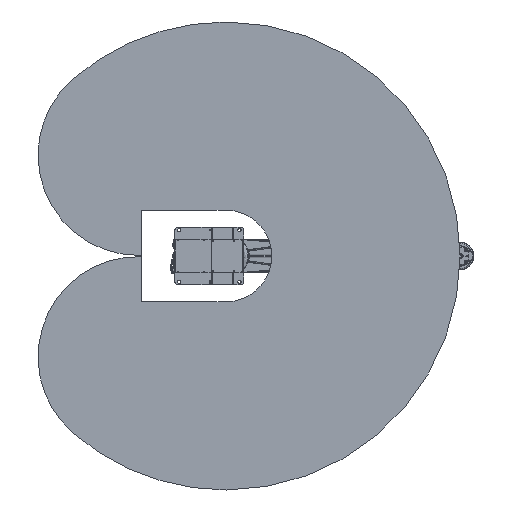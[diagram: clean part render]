
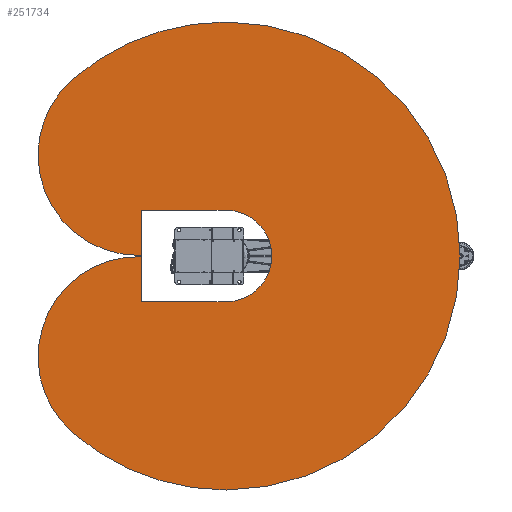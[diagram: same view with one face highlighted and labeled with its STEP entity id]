
A CAD part, front view. The second image highlights one B-rep face of the part: STEP entity #251734.
In plain terms, the highlighted planar face has unit normal (0, -1, 0).
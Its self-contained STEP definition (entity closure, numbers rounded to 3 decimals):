
#2666 = CARTESIAN_POINT ( 'NONE',  ( -144.82, -91.572, 0. ) ) ;
#3368 = VERTEX_POINT ( 'NONE', #263154 ) ;
#5103 = DIRECTION ( 'NONE',  ( 0., 0., 1. ) ) ;
#9723 = VERTEX_POINT ( 'NONE', #146915 ) ;
#11992 = ORIENTED_EDGE ( 'NONE', *, *, #93699, .F. ) ;
#12729 = ORIENTED_EDGE ( 'NONE', *, *, #130005, .F. ) ;
#13671 = CARTESIAN_POINT ( 'NONE',  ( -144.82, -91.572, 0. ) ) ;
#19143 = EDGE_CURVE ( 'NONE', #95452, #177715, #262542, .T. ) ;
#19301 = EDGE_CURVE ( 'NONE', #152040, #197675, #184826, .T. ) ;
#23565 = ORIENTED_EDGE ( 'NONE', *, *, #234563, .T. ) ;
#25460 = ORIENTED_EDGE ( 'NONE', *, *, #56161, .T. ) ;
#26246 = AXIS2_PLACEMENT_3D ( 'NONE', #228909, #87481, #252648 ) ;
#26438 = DIRECTION ( 'NONE',  ( 0., 0., 1. ) ) ;
#37076 = CARTESIAN_POINT ( 'NONE',  ( -538.455, -91.572, 452.826 ) ) ;
#37450 = DIRECTION ( 'NONE',  ( 0., 0., 1. ) ) ;
#40552 = CARTESIAN_POINT ( 'NONE',  ( -833.682, -91.572, -792.445 ) ) ;
#40664 = VERTEX_POINT ( 'NONE', #264055 ) ;
#52526 = DIRECTION ( 'NONE',  ( 0., 1., 0. ) ) ;
#53549 = EDGE_CURVE ( 'NONE', #177715, #95875, #186306, .T. ) ;
#55373 = ORIENTED_EDGE ( 'NONE', *, *, #19143, .F. ) ;
#56161 = EDGE_CURVE ( 'NONE', #207208, #299601, #227366, .T. ) ;
#57226 = CARTESIAN_POINT ( 'NONE',  ( -144.82, -91.572, -205.212 ) ) ;
#59305 = VECTOR ( 'NONE', #84178, 1000. ) ;
#60805 = DIRECTION ( 'NONE',  ( 0., 0., 1. ) ) ;
#63287 = FACE_OUTER_BOUND ( 'NONE', #231058, .T. ) ;
#68982 = CARTESIAN_POINT ( 'NONE',  ( -144.82, -91.572, 205.212 ) ) ;
#76695 = ORIENTED_EDGE ( 'NONE', *, *, #53549, .F. ) ;
#84178 = DIRECTION ( 'NONE',  ( -1., 0., 0. ) ) ;
#85068 = DIRECTION ( 'NONE',  ( 0., 0., 1. ) ) ;
#87481 = DIRECTION ( 'NONE',  ( 0., 1., 0. ) ) ;
#88795 = VECTOR ( 'NONE', #85068, 1000. ) ;
#91665 = PLANE ( 'NONE',  #222423 ) ;
#93699 = EDGE_CURVE ( 'NONE', #40664, #3368, #194626, .T. ) ;
#95452 = VERTEX_POINT ( 'NONE', #201040 ) ;
#95875 = VERTEX_POINT ( 'NONE', #194530 ) ;
#103903 = CARTESIAN_POINT ( 'NONE',  ( -144.82, -91.572, 0. ) ) ;
#104974 = CARTESIAN_POINT ( 'NONE',  ( -524.82, -91.572, 205.212 ) ) ;
#113444 = CIRCLE ( 'NONE', #124711, 450. ) ;
#124711 = AXIS2_PLACEMENT_3D ( 'NONE', #37076, #202239, #60805 ) ;
#127613 = DIRECTION ( 'NONE',  ( 0., 0., 1. ) ) ;
#130005 = EDGE_CURVE ( 'NONE', #296616, #9723, #237901, .T. ) ;
#132074 = ORIENTED_EDGE ( 'NONE', *, *, #19301, .F. ) ;
#137119 = DIRECTION ( 'NONE',  ( 0., 1., 0. ) ) ;
#146566 = DIRECTION ( 'NONE',  ( 0., 1., 0. ) ) ;
#146915 = CARTESIAN_POINT ( 'NONE',  ( -144.82, -91.572, 1050. ) ) ;
#151031 = LINE ( 'NONE', #187589, #206296 ) ;
#151666 = LINE ( 'NONE', #296827, #88795 ) ;
#152040 = VERTEX_POINT ( 'NONE', #68982 ) ;
#159440 = EDGE_CURVE ( 'NONE', #299601, #95875, #151666, .T. ) ;
#163474 = ORIENTED_EDGE ( 'NONE', *, *, #235689, .F. ) ;
#167850 = DIRECTION ( 'NONE',  ( 0., 1., 0. ) ) ;
#177715 = VERTEX_POINT ( 'NONE', #40552 ) ;
#178876 = DIRECTION ( 'NONE',  ( 0., 1., 0. ) ) ;
#184826 = LINE ( 'NONE', #225622, #59305 ) ;
#185113 = ORIENTED_EDGE ( 'NONE', *, *, #261062, .T. ) ;
#186306 = CIRCLE ( 'NONE', #197977, 450. ) ;
#187589 = CARTESIAN_POINT ( 'NONE',  ( -524.82, -91.572, 0. ) ) ;
#193968 = CARTESIAN_POINT ( 'NONE',  ( -144.82, -91.572, 0. ) ) ;
#194530 = CARTESIAN_POINT ( 'NONE',  ( -524.82, -91.572, -3.032 ) ) ;
#194626 = CIRCLE ( 'NONE', #26246, 450. ) ;
#196130 = AXIS2_PLACEMENT_3D ( 'NONE', #193968, #52526, #217703 ) ;
#197675 = VERTEX_POINT ( 'NONE', #104974 ) ;
#197977 = AXIS2_PLACEMENT_3D ( 'NONE', #288148, #146566, #5103 ) ;
#201040 = CARTESIAN_POINT ( 'NONE',  ( -144.82, -91.572, -1050. ) ) ;
#202239 = DIRECTION ( 'NONE',  ( 0., 1., 0. ) ) ;
#204567 = AXIS2_PLACEMENT_3D ( 'NONE', #103903, #269136, #127613 ) ;
#206296 = VECTOR ( 'NONE', #211295, 1000. ) ;
#207208 = VERTEX_POINT ( 'NONE', #57226 ) ;
#209344 = CARTESIAN_POINT ( 'NONE',  ( -144.82, -91.572, 0. ) ) ;
#209361 = EDGE_CURVE ( 'NONE', #3368, #296616, #113444, .T. ) ;
#211295 = DIRECTION ( 'NONE',  ( 0., 0., 1. ) ) ;
#212459 = CARTESIAN_POINT ( 'NONE',  ( -144.82, -91.572, -205.212 ) ) ;
#212486 = VECTOR ( 'NONE', #259991, 1000. ) ;
#217703 = DIRECTION ( 'NONE',  ( 0., 0., 1. ) ) ;
#222423 = AXIS2_PLACEMENT_3D ( 'NONE', #209344, #137119, #256851 ) ;
#224829 = CARTESIAN_POINT ( 'NONE',  ( -524.82, -91.572, -205.212 ) ) ;
#225622 = CARTESIAN_POINT ( 'NONE',  ( -144.82, -91.572, 205.212 ) ) ;
#227366 = LINE ( 'NONE', #212459, #212486 ) ;
#228909 = CARTESIAN_POINT ( 'NONE',  ( -538.455, -91.572, 452.826 ) ) ;
#231058 = EDGE_LOOP ( 'NONE', ( #132074, #23565, #25460, #259027, #76695, #55373, #163474, #12729, #300319, #11992, #185113 ) ) ;
#232614 = CIRCLE ( 'NONE', #196130, 1050. ) ;
#234563 = EDGE_CURVE ( 'NONE', #152040, #207208, #277436, .T. ) ;
#235689 = EDGE_CURVE ( 'NONE', #9723, #95452, #232614, .T. ) ;
#237901 = CIRCLE ( 'NONE', #242267, 1050. ) ;
#242267 = AXIS2_PLACEMENT_3D ( 'NONE', #13671, #178876, #37450 ) ;
#245480 = AXIS2_PLACEMENT_3D ( 'NONE', #2666, #167850, #26438 ) ;
#251734 = ADVANCED_FACE ( 'NONE', ( #63287 ), #91665, .F. ) ;
#252648 = DIRECTION ( 'NONE',  ( 0., 0., 1. ) ) ;
#256851 = DIRECTION ( 'NONE',  ( 0., 0., 1. ) ) ;
#259027 = ORIENTED_EDGE ( 'NONE', *, *, #159440, .T. ) ;
#259991 = DIRECTION ( 'NONE',  ( -1., 0., 0. ) ) ;
#261062 = EDGE_CURVE ( 'NONE', #40664, #197675, #151031, .T. ) ;
#262542 = CIRCLE ( 'NONE', #204567, 1050. ) ;
#263154 = CARTESIAN_POINT ( 'NONE',  ( -538.455, -91.572, 2.826 ) ) ;
#264055 = CARTESIAN_POINT ( 'NONE',  ( -524.82, -91.572, 3.032 ) ) ;
#269136 = DIRECTION ( 'NONE',  ( 0., 1., 0. ) ) ;
#277436 = CIRCLE ( 'NONE', #245480, 205.212 ) ;
#279314 = CARTESIAN_POINT ( 'NONE',  ( -833.682, -91.572, 792.445 ) ) ;
#288148 = CARTESIAN_POINT ( 'NONE',  ( -538.455, -91.572, -452.826 ) ) ;
#296616 = VERTEX_POINT ( 'NONE', #279314 ) ;
#296827 = CARTESIAN_POINT ( 'NONE',  ( -524.82, -91.572, 0. ) ) ;
#299601 = VERTEX_POINT ( 'NONE', #224829 ) ;
#300319 = ORIENTED_EDGE ( 'NONE', *, *, #209361, .F. ) ;
